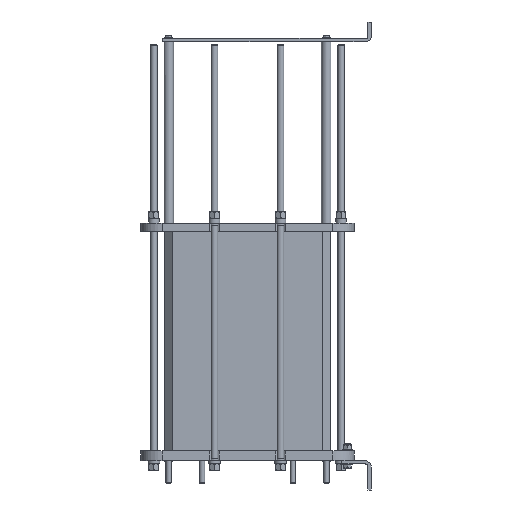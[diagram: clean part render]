
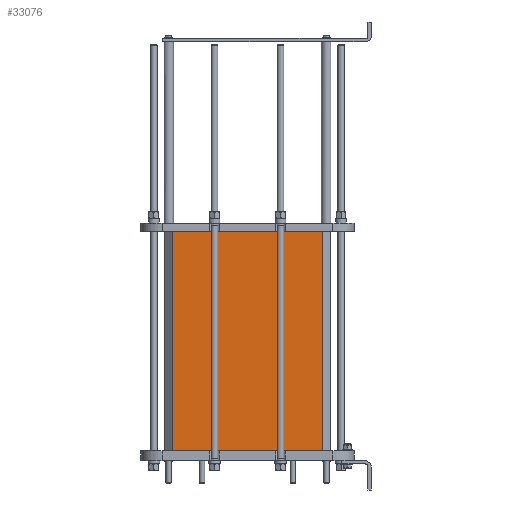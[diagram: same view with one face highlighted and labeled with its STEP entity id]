
A CAD part, left-side view. The second image highlights one B-rep face of the part: STEP entity #33076.
In plain terms, the highlighted planar face has unit normal (-1, 0, 0).
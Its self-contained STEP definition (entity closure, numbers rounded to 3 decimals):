
#30011=CARTESIAN_POINT('',(-166.5,-230.0,0.0));
#30012=VERTEX_POINT('',#30011);
#30019=CARTESIAN_POINT('',(-166.5,230.0,0.0));
#30020=VERTEX_POINT('',#30019);
#30021=CARTESIAN_POINT('',(-166.5,-230.0,0.0));
#30022=DIRECTION('',(0.0,1.0,0.0));
#30023=VECTOR('',#30022,460.0);
#30024=LINE('',#30021,#30023);
#30025=EDGE_CURVE('',#30012,#30020,#30024,.T.);
#31020=CARTESIAN_POINT('',(-166.5,230.0,670.5));
#31021=VERTEX_POINT('',#31020);
#31028=CARTESIAN_POINT('',(-166.5,-230.0,670.5));
#31029=VERTEX_POINT('',#31028);
#31030=CARTESIAN_POINT('',(-166.5,-230.0,670.5));
#31031=DIRECTION('',(0.0,1.0,0.0));
#31032=VECTOR('',#31031,460.0);
#31033=LINE('',#31030,#31032);
#31034=EDGE_CURVE('',#31029,#31021,#31033,.T.);
#33044=CARTESIAN_POINT('',(-166.5,-230.0,0.0));
#33045=DIRECTION('',(0.0,0.0,1.0));
#33046=VECTOR('',#33045,670.5);
#33047=LINE('',#33044,#33046);
#33048=EDGE_CURVE('',#30012,#31029,#33047,.T.);
#33060=CARTESIAN_POINT('',(-166.5,0.0,0.0));
#33061=DIRECTION('',(-1.0,0.0,0.0));
#33062=DIRECTION('',(0.0,0.0,1.0));
#33063=AXIS2_PLACEMENT_3D('',#33060,#33061,#33062);
#33064=PLANE('',#33063);
#33065=ORIENTED_EDGE('',*,*,#31034,.T.);
#33066=CARTESIAN_POINT('',(-166.5,230.0,0.0));
#33067=DIRECTION('',(0.0,0.0,1.0));
#33068=VECTOR('',#33067,670.5);
#33069=LINE('',#33066,#33068);
#33070=EDGE_CURVE('',#30020,#31021,#33069,.T.);
#33071=ORIENTED_EDGE('',*,*,#33070,.F.);
#33072=ORIENTED_EDGE('',*,*,#30025,.F.);
#33073=ORIENTED_EDGE('',*,*,#33048,.T.);
#33074=EDGE_LOOP('',(#33065,#33071,#33072,#33073));
#33075=FACE_OUTER_BOUND('',#33074,.T.);
#33076=ADVANCED_FACE('',(#33075),#33064,.T.);
